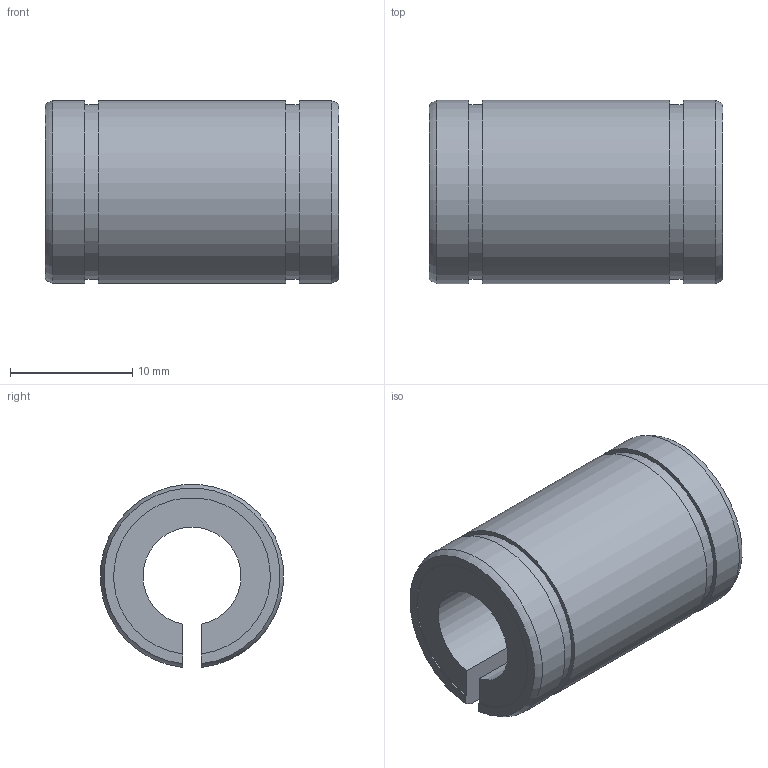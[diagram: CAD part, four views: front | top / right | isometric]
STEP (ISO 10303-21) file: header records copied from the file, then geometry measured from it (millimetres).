
FILE_DESCRIPTION((''),'2;1');
FILE_NAME('D:\製品 (図面)\カタログ用3D\リニアベアリング関連(改)\STEP形式\L-ADJ\L8B-ADJ.stp','2010-01-20T15:45:09',('Tsuchiya'),(''),'Autodesk Inventor 10','Autodesk Inventor 10','');
FILE_SCHEMA(('AUTOMOTIVE_DESIGN { 1 0 10303 214 1 1 1 1 }'));
Length unit declared in the file: millimetre
Products named in the file (1): L-ADJ(1)
Bounding box: 24 x 14.95 x 14.93 mm (x, y, z)
Volume: 2851.3 mm3; surface area: 2109.7 mm2
Topology: 1 solids, 1 shells, 20 faces, 54 edges, 36 vertices
Faces by surface type: plane 10, cylinder 8, torus 2
Entity records: 675 total; most frequent: CARTESIAN_POINT 135, DIRECTION 110, ORIENTED_EDGE 108, EDGE_CURVE 54, AXIS2_PLACEMENT_3D 39, VERTEX_POINT 36, VECTOR 32, LINE 32
